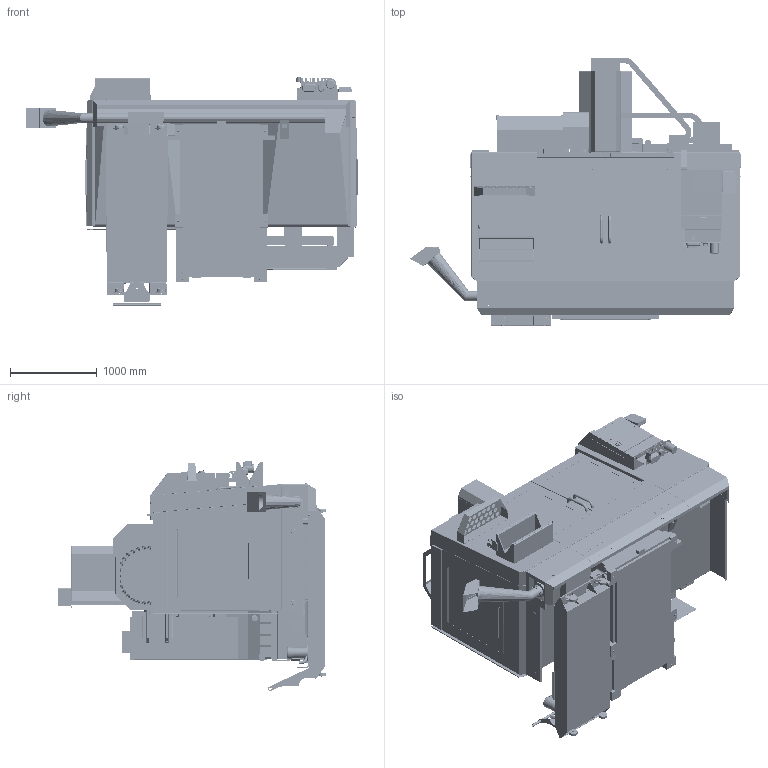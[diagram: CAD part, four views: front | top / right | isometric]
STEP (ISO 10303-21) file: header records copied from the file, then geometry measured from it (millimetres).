
FILE_DESCRIPTION (( 'STEP AP214' ), '1' );
FILE_NAME ('10000110045.STEP', '2019-01-10T01:30:47', ( '' ), ( '' ), 'SwSTEP 2.0', 'SolidWorks 2018', '' );
FILE_SCHEMA (( 'AUTOMOTIVE_DESIGN' ));
Length unit declared in the file: inch
Products named in the file (284): 10000023243; 10000087841; 10000082383; 10000063367; 10000044500; 10000067586; 10000100142; 10000081647; 10000075549; 10000075519; 10000092804; 10000067571; 10000021461; 10000085782; 10000095056_ASSEMBLED; 50-9010_02; 10000087839; 10000082374; 10000075385; 10000084042; 10000067592; 10000101385; 10000081646; 10000062081; 10000075655; 10000092798; 10000067603_Retract; 10000021459; 25-11284A; 57-0499; 22-9087; 10000086568; 10000082373; 10000066226; 10000087231_Closed; 93-1985; 10000101387; 10000082876; 25-1696ind; 10000079046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
Assembly tree (427 placements, depth 6):
  10000110045
    10000086642_37-3682
      10000076242
      44-0018A  x6
      50-9011_00_MED VF NYT Y AXIS  x2
        50-9011_01
        50-9011_02
    10000086728
      10000092804
        10000092798
      10000082794
      10000088626_32-1216
      10000082795
      10000079727
      10000082788
      10000076134
      10000082789
      10000082791
      10000084045
      50-9011_02  x4
      10000017842
      58-0326
      10000017907
      58-3052  x2
      10000077154
      58-3108
    10000087996_37-3703
      10000082417
      22-9087  x16
      50-9010_02  x4
      10000023243  x2
      10000067603_Retract
        10000067602
          10000067601
          10000067599_Weldment
          10000067598  x2
          10000067600
          93-1985
        10000067597
          10000067596
          10000067594
          10000067593  x2
          10000067595
          93-1985
        10000067592
          10000067591
          10000067589
          10000067588  x2
          10000067590
          93-1985
        10000067587
          10000067586
          10000067584
          10000067583  x2
          10000067585
          93-1985
        10000067582
          10000067580
          10000067581
          10000067578  x2
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Bounding box: 3833.48 x 3098.01 x 2662.72 mm (x, y, z)
Volume: 2127281087.2 mm3; surface area: 162497600.8 mm2
Topology: 515 solids, 548 shells, 33293 faces, 80881 edges, 49468 vertices
Faces by surface type: plane 17474, cylinder 10199, cone 2785, bspline 1518, torus 1129, sphere 188
Entity records: 690187 total; most frequent: CARTESIAN_POINT 160321, DIRECTION 102551, ORIENTED_EDGE 100596, EDGE_CURVE 50300, AXIS2_PLACEMENT_3D 34608, LINE 33335, VECTOR 33335, VERTEX_POINT 30762
